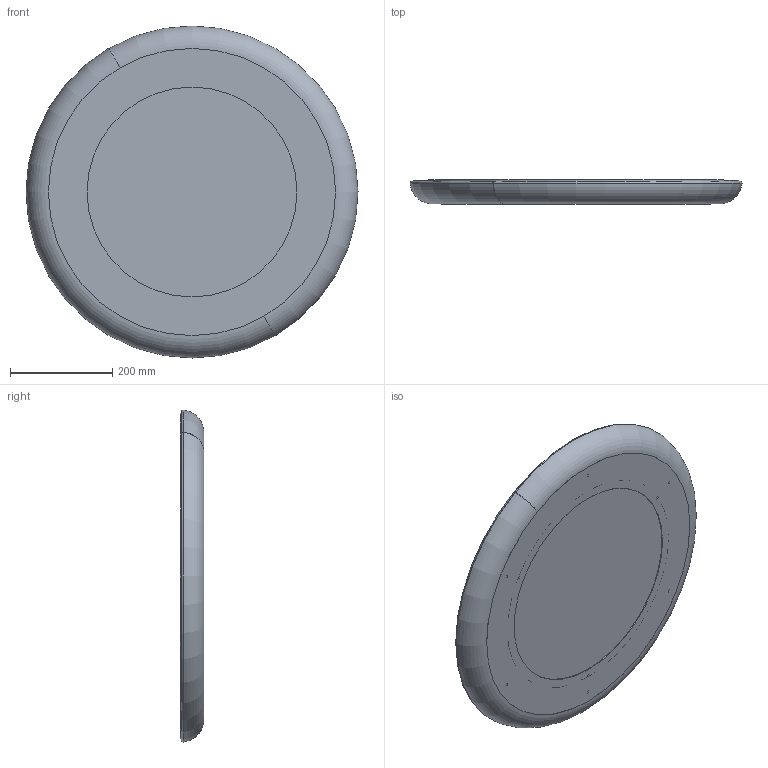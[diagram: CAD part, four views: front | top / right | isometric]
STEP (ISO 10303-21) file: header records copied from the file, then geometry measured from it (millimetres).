
FILE_DESCRIPTION (( 'STEP AP214' ), '1' );
FILE_NAME ('PL SUNDAY.STEP', '2024-01-30T09:51:29', ( '' ), ( '' ), 'SwSTEP 2.0', 'SolidWorks 2023', '' );
FILE_SCHEMA (( 'AUTOMOTIVE_DESIGN' ));
Length unit declared in the file: millimetre
Products named in the file (4): WSCM2C0126-0100-04; WSCM2J0016-0100-02; PL SUNDAY; WSCP2F0023-1900-00
Assembly tree (3 placements, depth 2):
  PL SUNDAY
    WSCM2C0126-0100-04
    WSCM2J0016-0100-02
    WSCP2F0023-1900-00
Bounding box: 648.59 x 46.5 x 648.59 mm (x, y, z)
Volume: 1641388 mm3; surface area: 1475213.2 mm2
Topology: 14 solids, 14 shells, 206 faces, 461 edges, 296 vertices
Faces by surface type: cylinder 113, plane 55, cone 30, torus 8
Entity records: 6141 total; most frequent: DIRECTION 1161, CARTESIAN_POINT 969, ORIENTED_EDGE 922, AXIS2_PLACEMENT_3D 488, EDGE_CURVE 461, VERTEX_POINT 296, CIRCLE 276, EDGE_LOOP 265
